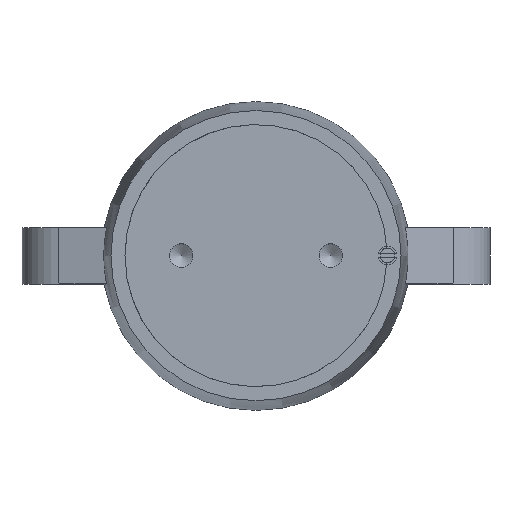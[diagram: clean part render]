
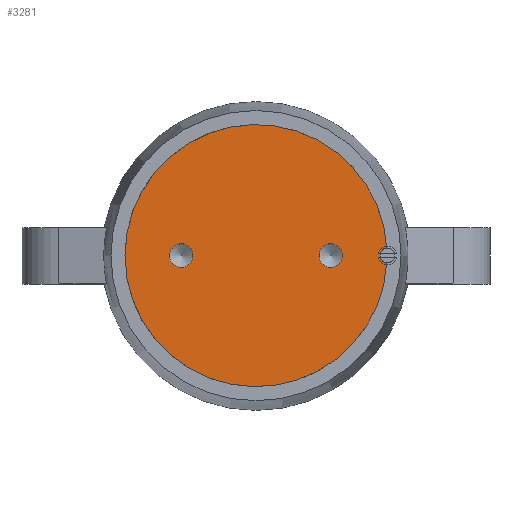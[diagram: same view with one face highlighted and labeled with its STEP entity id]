
A CAD part, top view. The second image highlights one B-rep face of the part: STEP entity #3281.
In plain terms, the highlighted planar face has unit normal (0, 0, 1).
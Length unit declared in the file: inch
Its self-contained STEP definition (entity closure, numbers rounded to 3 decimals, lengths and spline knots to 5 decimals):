
#164=PLANE('',#3578);
#255=FACE_BOUND('',#924,.T.);
#256=FACE_BOUND('',#925,.T.);
#668=FACE_OUTER_BOUND('',#923,.T.);
#923=EDGE_LOOP('',(#2344,#2345));
#924=EDGE_LOOP('',(#2346));
#925=EDGE_LOOP('',(#2347));
#1156=CIRCLE('',#3577,0.098);
#1157=CIRCLE('',#3579,1.75);
#1158=CIRCLE('',#3580,0.15745);
#1159=CIRCLE('',#3581,0.15745);
#1431=VERTEX_POINT('',#5037);
#1433=VERTEX_POINT('',#5041);
#1434=VERTEX_POINT('',#5046);
#1435=VERTEX_POINT('',#5048);
#1770=EDGE_CURVE('',#1431,#1433,#1156,.T.);
#1771=EDGE_CURVE('',#1433,#1431,#1157,.T.);
#1772=EDGE_CURVE('',#1434,#1434,#1158,.T.);
#1773=EDGE_CURVE('',#1435,#1435,#1159,.T.);
#2344=ORIENTED_EDGE('',*,*,#1770,.T.);
#2345=ORIENTED_EDGE('',*,*,#1771,.T.);
#2346=ORIENTED_EDGE('',*,*,#1772,.T.);
#2347=ORIENTED_EDGE('',*,*,#1773,.T.);
#3281=ADVANCED_FACE('',(#668,#255,#256),#164,.T.);
#3577=AXIS2_PLACEMENT_3D('',#5043,#4123,#4124);
#3578=AXIS2_PLACEMENT_3D('',#5044,#4125,#4126);
#3579=AXIS2_PLACEMENT_3D('',#5045,#4127,#4128);
#3580=AXIS2_PLACEMENT_3D('',#5047,#4129,#4130);
#3581=AXIS2_PLACEMENT_3D('',#5049,#4131,#4132);
#4123=DIRECTION('center_axis',(0.,0.,
-1.));
#4124=DIRECTION('ref_axis',(1.,0.,0.));
#4125=DIRECTION('center_axis',(0.,0.,
1.));
#4126=DIRECTION('ref_axis',(1.,0.,0.));
#4127=DIRECTION('center_axis',(0.,0.,
1.));
#4128=DIRECTION('ref_axis',(1.,0.,0.));
#4129=DIRECTION('center_axis',(0.,0.,
-1.));
#4130=DIRECTION('ref_axis',(1.,0.,0.));
#4131=DIRECTION('center_axis',(0.,0.,
-1.));
#4132=DIRECTION('ref_axis',(1.,0.,0.));
#5037=CARTESIAN_POINT('',(1.74743,-0.09477,8.));
#5041=CARTESIAN_POINT('',(1.74711,0.10049,8.));
#5043=CARTESIAN_POINT('Origin',(1.75577,0.00288,8.));
#5044=CARTESIAN_POINT('Origin',(0.875,0.,8.));
#5045=CARTESIAN_POINT('Origin',(0.,0.,
8.));
#5046=CARTESIAN_POINT('',(-0.84255,0.,8.));
#5047=CARTESIAN_POINT('Origin',(-1.,0.,8.));
#5048=CARTESIAN_POINT('',(1.15745,0.,8.));
#5049=CARTESIAN_POINT('Origin',(1.,0.,8.));
